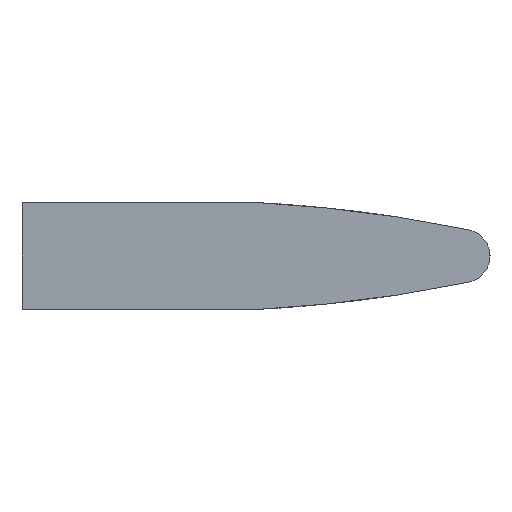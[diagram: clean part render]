
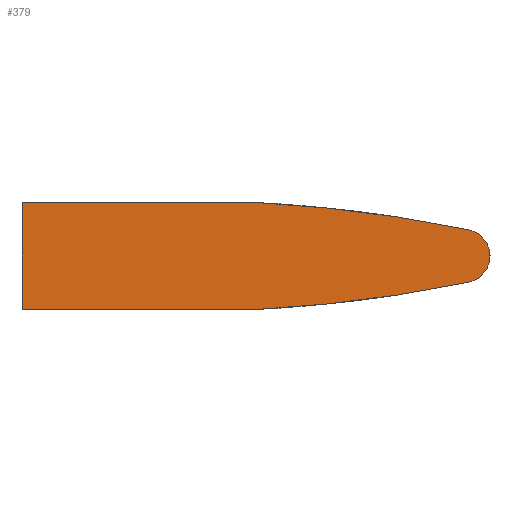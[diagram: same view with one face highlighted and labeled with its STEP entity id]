
A CAD part, left-side view. The second image highlights one B-rep face of the part: STEP entity #379.
In plain terms, the highlighted planar face has unit normal (-1, 0, 0).
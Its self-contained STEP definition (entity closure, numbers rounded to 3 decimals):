
#155 = EDGE_CURVE( '', #327, #281, #429, .T. );
#169 = VERTEX_POINT( '', #444 );
#177 = VERTEX_POINT( '', #453 );
#181 = VERTEX_POINT( '', #457 );
#207 = EDGE_CURVE( '', #309, #181, #485, .T. );
#249 = EDGE_CURVE( '', #325, #309, #535, .T. );
#255 = EDGE_CURVE( '', #181, #177, #541, .T. );
#281 = VERTEX_POINT( '', #569 );
#309 = VERTEX_POINT( '', #600 );
#325 = VERTEX_POINT( '', #616 );
#327 = VERTEX_POINT( '', #618 );
#363 = EDGE_CURVE( '', #177, #169, #658, .T. );
#373 = EDGE_CURVE( '', #169, #327, #668, .T. );
#379 = ADVANCED_FACE( '', ( #675 ), #676, .F. );
#383 = EDGE_CURVE( '', #281, #325, #680, .T. );
#429 = LINE( '', #720, #721 );
#444 = CARTESIAN_POINT( '', ( -58.5, -17.5, -4. ) );
#453 = CARTESIAN_POINT( '', ( -58.5, -33.402, -1.963 ) );
#457 = CARTESIAN_POINT( '', ( -58.5, -35., 0. ) );
#485 = CIRCLE( '', #810, 2. );
#535 = CIRCLE( '', #885, 106.818 );
#541 = CIRCLE( '', #893, 2. );
#569 = CARTESIAN_POINT( '', ( -58.5, 0., 4. ) );
#600 = CARTESIAN_POINT( '', ( -58.5, -33.402, 1.963 ) );
#616 = CARTESIAN_POINT( '', ( -58.5, -17.5, 4. ) );
#618 = CARTESIAN_POINT( '', ( -58.5, 0., -4. ) );
#658 = CIRCLE( '', #1066, 106.818 );
#668 = LINE( '', #1082, #1083 );
#675 = FACE_OUTER_BOUND( '', #1091, .T. );
#676 = PLANE( '', #1092 );
#680 = LINE( '', #1097, #1098 );
#720 = CARTESIAN_POINT( '', ( -58.5, 0., -4. ) );
#721 = VECTOR( '', #1159, 1. );
#810 = AXIS2_PLACEMENT_3D( '', #1209, #1210, #1211 );
#885 = AXIS2_PLACEMENT_3D( '', #1287, #1288, #1289 );
#893 = AXIS2_PLACEMENT_3D( '', #1293, #1294, #1295 );
#1066 = AXIS2_PLACEMENT_3D( '', #1425, #1426, #1427 );
#1082 = CARTESIAN_POINT( '', ( -58.5, -17.5, -4. ) );
#1083 = VECTOR( '', #1433, 1. );
#1091 = EDGE_LOOP( '', ( #1449, #1450, #1451, #1452, #1453, #1454, #1455 ) );
#1092 = AXIS2_PLACEMENT_3D( '', #1456, #1457, #1458 );
#1097 = CARTESIAN_POINT( '', ( -58.5, 0., 4. ) );
#1098 = VECTOR( '', #1459, 1. );
#1159 = DIRECTION( '', ( 0., 0., 1. ) );
#1209 = CARTESIAN_POINT( '', ( -58.5, -33., 0.004 ) );
#1210 = DIRECTION( '', ( 1., 0., 0. ) );
#1211 = DIRECTION( '', ( 0., -0.201, 0.98 ) );
#1287 = CARTESIAN_POINT( '', ( -58.5, -11.918, -102.672 ) );
#1288 = DIRECTION( '', ( 1., 0., 0. ) );
#1289 = DIRECTION( '', ( 0., -0.052, 0.999 ) );
#1293 = CARTESIAN_POINT( '', ( -58.5, -33., -0.004 ) );
#1294 = DIRECTION( '', ( 1., 0., 0. ) );
#1295 = DIRECTION( '', ( 0., -1., 0.002 ) );
#1425 = CARTESIAN_POINT( '', ( -58.5, -11.918, 102.672 ) );
#1426 = DIRECTION( '', ( 1., 0., 0. ) );
#1427 = DIRECTION( '', ( 0., -0.201, -0.98 ) );
#1433 = DIRECTION( '', ( 0., 1., 0. ) );
#1449 = ORIENTED_EDGE( '', *, *, #207, .F. );
#1450 = ORIENTED_EDGE( '', *, *, #249, .F. );
#1451 = ORIENTED_EDGE( '', *, *, #383, .F. );
#1452 = ORIENTED_EDGE( '', *, *, #155, .F. );
#1453 = ORIENTED_EDGE( '', *, *, #373, .F. );
#1454 = ORIENTED_EDGE( '', *, *, #363, .F. );
#1455 = ORIENTED_EDGE( '', *, *, #255, .F. );
#1456 = CARTESIAN_POINT( '', ( -58.5, 0., 0. ) );
#1457 = DIRECTION( '', ( 1., 0., 0. ) );
#1458 = DIRECTION( '', ( 0., 0., -1. ) );
#1459 = DIRECTION( '', ( 0., -1., 0. ) );
